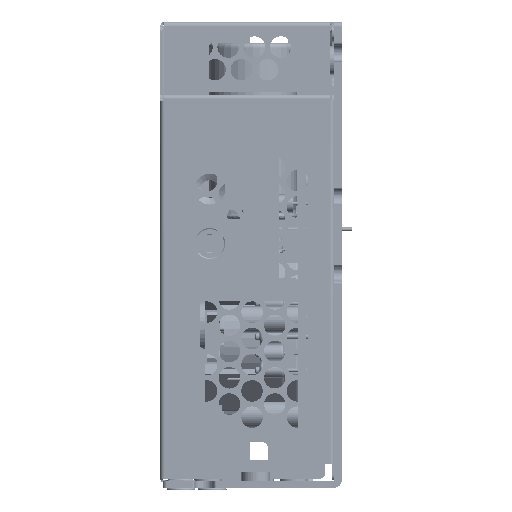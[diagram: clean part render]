
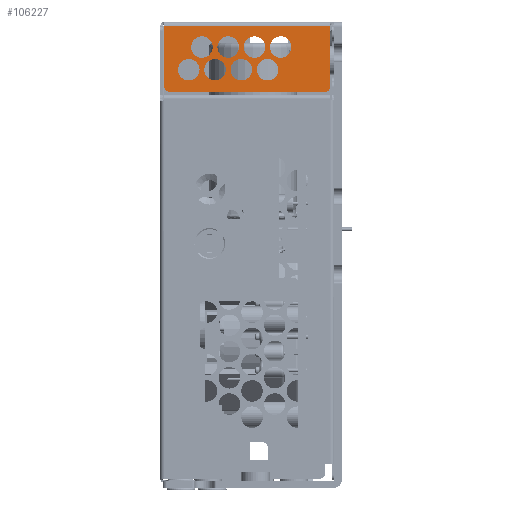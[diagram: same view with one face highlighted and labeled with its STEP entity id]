
A CAD part, left-side view. The second image highlights one B-rep face of the part: STEP entity #106227.
In plain terms, the highlighted planar face has unit normal (-1, 0, 0) as drawn and (0, 1, 0) by its records, which use the part's own axes.
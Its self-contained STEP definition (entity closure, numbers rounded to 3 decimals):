
#87768=DIRECTION('',(0.,0.,-1.));
#87769=VECTOR('',#87768,34.7);
#87770=CARTESIAN_POINT('',(95.,72.,35.6));
#87771=LINE('',#87770,#87769);
#87796=CARTESIAN_POINT('',(82.3,72.,1.9));
#87797=DIRECTION('',(0.,1.,0.));
#87798=DIRECTION('',(0.,0.,-1.));
#87799=AXIS2_PLACEMENT_3D('',#87796,#87797,#87798);
#87801=DIRECTION('',(-1.,0.,0.));
#87802=VECTOR('',#87801,12.4);
#87803=CARTESIAN_POINT('',(94.7,72.,0.9));
#87804=LINE('',#87803,#87802);
#87805=DIRECTION('',(-1.,0.,0.));
#87806=VECTOR('',#87805,0.3);
#87807=CARTESIAN_POINT('',(95.,72.,0.9));
#87808=LINE('',#87807,#87806);
#87809=DIRECTION('',(-1.,0.,0.));
#87810=VECTOR('',#87809,0.129);
#87811=CARTESIAN_POINT('',(95.,72.,35.6));
#87812=LINE('',#87811,#87810);
#87813=DIRECTION('',(1.,0.,0.));
#87814=VECTOR('',#87813,12.571);
#87815=CARTESIAN_POINT('',(82.3,72.,35.6));
#87816=LINE('',#87815,#87814);
#87817=CARTESIAN_POINT('',(82.3,72.,34.6));
#87818=DIRECTION('',(0.,1.,0.));
#87819=DIRECTION('',(-1.,0.,0.));
#87820=AXIS2_PLACEMENT_3D('',#87817,#87818,#87819);
#87822=DIRECTION('',(0.,0.,1.));
#87823=VECTOR('',#87822,32.7);
#87824=CARTESIAN_POINT('',(81.3,72.,1.9));
#87825=LINE('',#87824,#87823);
#87826=CARTESIAN_POINT('',(85.9,72.,6.));
#87827=DIRECTION('',(0.,1.,0.));
#87828=DIRECTION('',(-1.,0.,0.));
#87829=AXIS2_PLACEMENT_3D('',#87826,#87827,#87828);
#87831=CARTESIAN_POINT('',(85.9,72.,6.));
#87832=DIRECTION('',(0.,1.,0.));
#87833=DIRECTION('',(1.,0.,0.));
#87834=AXIS2_PLACEMENT_3D('',#87831,#87832,#87833);
#87836=CARTESIAN_POINT('',(85.9,72.,11.5));
#87837=DIRECTION('',(0.,1.,0.));
#87838=DIRECTION('',(-1.,0.,0.));
#87839=AXIS2_PLACEMENT_3D('',#87836,#87837,#87838);
#87841=CARTESIAN_POINT('',(85.9,72.,11.5));
#87842=DIRECTION('',(0.,1.,0.));
#87843=DIRECTION('',(1.,0.,0.));
#87844=AXIS2_PLACEMENT_3D('',#87841,#87842,#87843);
#87846=CARTESIAN_POINT('',(85.9,72.,17.));
#87847=DIRECTION('',(0.,1.,0.));
#87848=DIRECTION('',(-1.,0.,0.));
#87849=AXIS2_PLACEMENT_3D('',#87846,#87847,#87848);
#87851=CARTESIAN_POINT('',(85.9,72.,17.));
#87852=DIRECTION('',(0.,1.,0.));
#87853=DIRECTION('',(1.,0.,0.));
#87854=AXIS2_PLACEMENT_3D('',#87851,#87852,#87853);
#87856=CARTESIAN_POINT('',(85.9,72.,22.5));
#87857=DIRECTION('',(0.,1.,0.));
#87858=DIRECTION('',(-1.,0.,0.));
#87859=AXIS2_PLACEMENT_3D('',#87856,#87857,#87858);
#87861=CARTESIAN_POINT('',(85.9,72.,22.5));
#87862=DIRECTION('',(0.,1.,0.));
#87863=DIRECTION('',(1.,0.,0.));
#87864=AXIS2_PLACEMENT_3D('',#87861,#87862,#87863);
#87866=CARTESIAN_POINT('',(90.65,72.,8.751));
#87867=DIRECTION('',(0.,1.,0.));
#87868=DIRECTION('',(-1.,0.,0.));
#87869=AXIS2_PLACEMENT_3D('',#87866,#87867,#87868);
#87871=CARTESIAN_POINT('',(90.65,72.,8.751));
#87872=DIRECTION('',(0.,1.,0.));
#87873=DIRECTION('',(1.,0.,0.));
#87874=AXIS2_PLACEMENT_3D('',#87871,#87872,#87873);
#87876=CARTESIAN_POINT('',(90.65,72.,14.251));
#87877=DIRECTION('',(0.,1.,0.));
#87878=DIRECTION('',(-1.,0.,0.));
#87879=AXIS2_PLACEMENT_3D('',#87876,#87877,#87878);
#87881=CARTESIAN_POINT('',(90.65,72.,14.251));
#87882=DIRECTION('',(0.,1.,0.));
#87883=DIRECTION('',(1.,0.,0.));
#87884=AXIS2_PLACEMENT_3D('',#87881,#87882,#87883);
#87886=CARTESIAN_POINT('',(90.65,72.,19.751));
#87887=DIRECTION('',(0.,1.,0.));
#87888=DIRECTION('',(-1.,0.,0.));
#87889=AXIS2_PLACEMENT_3D('',#87886,#87887,#87888);
#87891=CARTESIAN_POINT('',(90.65,72.,19.751));
#87892=DIRECTION('',(0.,1.,0.));
#87893=DIRECTION('',(1.,0.,0.));
#87894=AXIS2_PLACEMENT_3D('',#87891,#87892,#87893);
#87896=CARTESIAN_POINT('',(90.65,72.,25.251));
#87897=DIRECTION('',(0.,1.,0.));
#87898=DIRECTION('',(-1.,0.,0.));
#87899=AXIS2_PLACEMENT_3D('',#87896,#87897,#87898);
#87901=CARTESIAN_POINT('',(90.65,72.,25.251));
#87902=DIRECTION('',(0.,1.,0.));
#87903=DIRECTION('',(1.,0.,0.));
#87904=AXIS2_PLACEMENT_3D('',#87901,#87902,#87903);
#91208=CARTESIAN_POINT('',(94.871,72.,35.6));
#91210=VERTEX_POINT('',#91208);
#91242=CARTESIAN_POINT('',(95.,72.,35.6));
#91243=CARTESIAN_POINT('',(95.,72.,0.9));
#91244=VERTEX_POINT('',#91242);
#91245=VERTEX_POINT('',#91243);
#91250=CARTESIAN_POINT('',(94.7,72.,0.9));
#91251=VERTEX_POINT('',#91250);
#91334=CARTESIAN_POINT('',(82.3,72.,0.9));
#91335=VERTEX_POINT('',#91334);
#91336=CARTESIAN_POINT('',(81.3,72.,1.9));
#91337=VERTEX_POINT('',#91336);
#91342=CARTESIAN_POINT('',(81.3,72.,34.6));
#91343=VERTEX_POINT('',#91342);
#91344=CARTESIAN_POINT('',(82.3,72.,35.6));
#91345=VERTEX_POINT('',#91344);
#91482=CARTESIAN_POINT('',(83.65,72.,6.));
#91483=CARTESIAN_POINT('',(88.15,72.,6.));
#91484=VERTEX_POINT('',#91482);
#91485=VERTEX_POINT('',#91483);
#91490=CARTESIAN_POINT('',(83.65,72.,11.5));
#91491=CARTESIAN_POINT('',(88.15,72.,11.5));
#91492=VERTEX_POINT('',#91490);
#91493=VERTEX_POINT('',#91491);
#91498=CARTESIAN_POINT('',(83.65,72.,17.));
#91499=CARTESIAN_POINT('',(88.15,72.,17.));
#91500=VERTEX_POINT('',#91498);
#91501=VERTEX_POINT('',#91499);
#91506=CARTESIAN_POINT('',(83.65,72.,22.5));
#91507=CARTESIAN_POINT('',(88.15,72.,22.5));
#91508=VERTEX_POINT('',#91506);
#91509=VERTEX_POINT('',#91507);
#91514=CARTESIAN_POINT('',(88.4,72.,8.751));
#91515=CARTESIAN_POINT('',(92.9,72.,8.751));
#91516=VERTEX_POINT('',#91514);
#91517=VERTEX_POINT('',#91515);
#91522=CARTESIAN_POINT('',(88.4,72.,14.251));
#91523=CARTESIAN_POINT('',(92.9,72.,14.251));
#91524=VERTEX_POINT('',#91522);
#91525=VERTEX_POINT('',#91523);
#91530=CARTESIAN_POINT('',(88.4,72.,19.751));
#91531=CARTESIAN_POINT('',(92.9,72.,19.751));
#91532=VERTEX_POINT('',#91530);
#91533=VERTEX_POINT('',#91531);
#91538=CARTESIAN_POINT('',(88.4,72.,25.251));
#91539=CARTESIAN_POINT('',(92.9,72.,25.251));
#91540=VERTEX_POINT('',#91538);
#91541=VERTEX_POINT('',#91539);
#106157=CARTESIAN_POINT('',(95.3,72.,27.355));
#106158=DIRECTION('',(0.,1.,0.));
#106159=DIRECTION('',(0.,0.,1.));
#106160=AXIS2_PLACEMENT_3D('',#106157,#106158,#106159);
#106161=PLANE('',#106160);
#106163=ORIENTED_EDGE('',*,*,#106162,.F.);
#106165=ORIENTED_EDGE('',*,*,#106164,.F.);
#106167=ORIENTED_EDGE('',*,*,#106166,.F.);
#106168=ORIENTED_EDGE('',*,*,#106144,.F.);
#106170=ORIENTED_EDGE('',*,*,#106169,.T.);
#106172=ORIENTED_EDGE('',*,*,#106171,.F.);
#106174=ORIENTED_EDGE('',*,*,#106173,.F.);
#106176=ORIENTED_EDGE('',*,*,#106175,.F.);
#106177=EDGE_LOOP('',(#106163,#106165,#106167,#106168,#106170,#106172,#106174,
#106176));
#106178=FACE_OUTER_BOUND('',#106177,.F.);
#106180=ORIENTED_EDGE('',*,*,#106179,.T.);
#106182=ORIENTED_EDGE('',*,*,#106181,.T.);
#106183=EDGE_LOOP('',(#106180,#106182));
#106184=FACE_BOUND('',#106183,.F.);
#106186=ORIENTED_EDGE('',*,*,#106185,.T.);
#106188=ORIENTED_EDGE('',*,*,#106187,.T.);
#106189=EDGE_LOOP('',(#106186,#106188));
#106190=FACE_BOUND('',#106189,.F.);
#106192=ORIENTED_EDGE('',*,*,#106191,.T.);
#106194=ORIENTED_EDGE('',*,*,#106193,.T.);
#106195=EDGE_LOOP('',(#106192,#106194));
#106196=FACE_BOUND('',#106195,.F.);
#106198=ORIENTED_EDGE('',*,*,#106197,.T.);
#106200=ORIENTED_EDGE('',*,*,#106199,.T.);
#106201=EDGE_LOOP('',(#106198,#106200));
#106202=FACE_BOUND('',#106201,.F.);
#106204=ORIENTED_EDGE('',*,*,#106203,.T.);
#106206=ORIENTED_EDGE('',*,*,#106205,.T.);
#106207=EDGE_LOOP('',(#106204,#106206));
#106208=FACE_BOUND('',#106207,.F.);
#106210=ORIENTED_EDGE('',*,*,#106209,.T.);
#106212=ORIENTED_EDGE('',*,*,#106211,.T.);
#106213=EDGE_LOOP('',(#106210,#106212));
#106214=FACE_BOUND('',#106213,.F.);
#106216=ORIENTED_EDGE('',*,*,#106215,.T.);
#106218=ORIENTED_EDGE('',*,*,#106217,.T.);
#106219=EDGE_LOOP('',(#106216,#106218));
#106220=FACE_BOUND('',#106219,.F.);
#106222=ORIENTED_EDGE('',*,*,#106221,.T.);
#106224=ORIENTED_EDGE('',*,*,#106223,.T.);
#106225=EDGE_LOOP('',(#106222,#106224));
#106226=FACE_BOUND('',#106225,.F.);
#87800=CIRCLE('',#87799,1.);
#87821=CIRCLE('',#87820,1.);
#87830=CIRCLE('',#87829,2.25);
#87835=CIRCLE('',#87834,2.25);
#87840=CIRCLE('',#87839,2.25);
#87845=CIRCLE('',#87844,2.25);
#87850=CIRCLE('',#87849,2.25);
#87855=CIRCLE('',#87854,2.25);
#87860=CIRCLE('',#87859,2.25);
#87865=CIRCLE('',#87864,2.25);
#87870=CIRCLE('',#87869,2.25);
#87875=CIRCLE('',#87874,2.25);
#87880=CIRCLE('',#87879,2.25);
#87885=CIRCLE('',#87884,2.25);
#87890=CIRCLE('',#87889,2.25);
#87895=CIRCLE('',#87894,2.25);
#87900=CIRCLE('',#87899,2.25);
#87905=CIRCLE('',#87904,2.25);
#106144=EDGE_CURVE('',#91244,#91245,#87771,.T.);
#106162=EDGE_CURVE('',#91335,#91337,#87800,.T.);
#106164=EDGE_CURVE('',#91251,#91335,#87804,.T.);
#106166=EDGE_CURVE('',#91245,#91251,#87808,.T.);
#106169=EDGE_CURVE('',#91244,#91210,#87812,.T.);
#106171=EDGE_CURVE('',#91345,#91210,#87816,.T.);
#106173=EDGE_CURVE('',#91343,#91345,#87821,.T.);
#106175=EDGE_CURVE('',#91337,#91343,#87825,.T.);
#106179=EDGE_CURVE('',#91484,#91485,#87830,.T.);
#106181=EDGE_CURVE('',#91485,#91484,#87835,.T.);
#106185=EDGE_CURVE('',#91492,#91493,#87840,.T.);
#106187=EDGE_CURVE('',#91493,#91492,#87845,.T.);
#106191=EDGE_CURVE('',#91500,#91501,#87850,.T.);
#106193=EDGE_CURVE('',#91501,#91500,#87855,.T.);
#106197=EDGE_CURVE('',#91508,#91509,#87860,.T.);
#106199=EDGE_CURVE('',#91509,#91508,#87865,.T.);
#106203=EDGE_CURVE('',#91516,#91517,#87870,.T.);
#106205=EDGE_CURVE('',#91517,#91516,#87875,.T.);
#106209=EDGE_CURVE('',#91524,#91525,#87880,.T.);
#106211=EDGE_CURVE('',#91525,#91524,#87885,.T.);
#106215=EDGE_CURVE('',#91532,#91533,#87890,.T.);
#106217=EDGE_CURVE('',#91533,#91532,#87895,.T.);
#106221=EDGE_CURVE('',#91540,#91541,#87900,.T.);
#106223=EDGE_CURVE('',#91541,#91540,#87905,.T.);
#106227=ADVANCED_FACE('',(#106178,#106184,#106190,#106196,#106202,#106208,
#106214,#106220,#106226),#106161,.T.);
